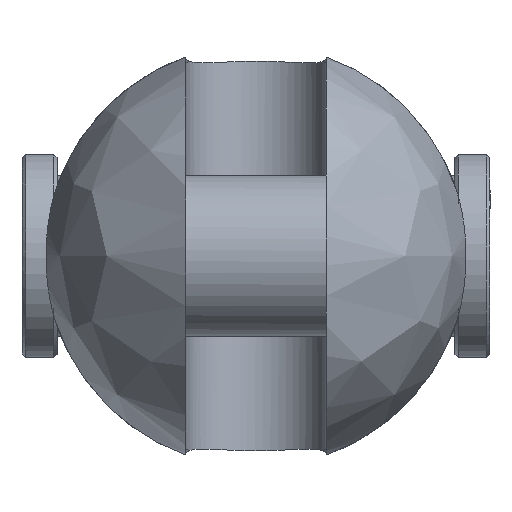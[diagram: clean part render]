
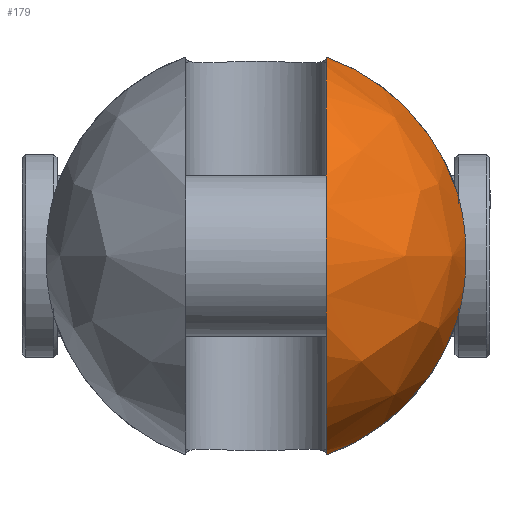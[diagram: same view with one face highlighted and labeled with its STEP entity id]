
A CAD part, left-side view. The second image highlights one B-rep face of the part: STEP entity #179.
In plain terms, the highlighted free-form (B-spline) face has degree [2, 2] with [9, 5] control points.
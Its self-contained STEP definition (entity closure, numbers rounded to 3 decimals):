
#179=ADVANCED_FACE('',(#320),#2412,.T.);
#320=FACE_OUTER_BOUND('',#481,.T.);
#481=EDGE_LOOP('',(#1192,#1193,#1194,#1195));
#1192=ORIENTED_EDGE('',*,*,#1576,.T.);
#1193=ORIENTED_EDGE('',*,*,#1598,.F.);
#1194=ORIENTED_EDGE('',*,*,#1608,.T.);
#1195=ORIENTED_EDGE('',*,*,#1592,.F.);
#1576=EDGE_CURVE('',#2244,#2243,#1979,.T.);
#1592=EDGE_CURVE('',#2244,#2256,#1989,.T.);
#1598=EDGE_CURVE('',#2263,#2243,#1990,.T.);
#1608=EDGE_CURVE('',#2263,#2256,#1782,.T.);
#1782=B_SPLINE_CURVE_WITH_KNOTS('',3,(#6046,#6047,#6048,#6049,#6050,#6051,
#6052,#6053,#6054,#6055,#6056,#6057,#6058,#6059),.UNSPECIFIED.,.F.,.F.,
(4,2,2,2,2,2,4),(0.,1.771,5.858,9.944,
14.031,18.117,19.888),.UNSPECIFIED.);
#1979=(
BOUNDED_CURVE()
B_SPLINE_CURVE(2,(#5894,#5895,#5896,#5897,#5898),.UNSPECIFIED.,.F.,.F.)
B_SPLINE_CURVE_WITH_KNOTS((3,2,3),(-88.858,-44.429,
0.),.UNSPECIFIED.)
CURVE()
GEOMETRIC_REPRESENTATION_ITEM()
RATIONAL_B_SPLINE_CURVE((1.,0.707,1.,0.707,1.))
REPRESENTATION_ITEM('')
);
#1989=(
BOUNDED_CURVE()
B_SPLINE_CURVE(2,(#5972,#5973,#5974),.UNSPECIFIED.,.F.,.F.)
B_SPLINE_CURVE_WITH_KNOTS((3,3),(0.,27.615),.UNSPECIFIED.)
CURVE()
GEOMETRIC_REPRESENTATION_ITEM()
RATIONAL_B_SPLINE_CURVE((1.,0.896,1.))
REPRESENTATION_ITEM('')
);
#1990=(
BOUNDED_CURVE()
B_SPLINE_CURVE(2,(#6001,#6002,#6003),.UNSPECIFIED.,.F.,.F.)
B_SPLINE_CURVE_WITH_KNOTS((3,3),(0.,27.615),.UNSPECIFIED.)
CURVE()
GEOMETRIC_REPRESENTATION_ITEM()
RATIONAL_B_SPLINE_CURVE((1.,0.896,1.))
REPRESENTATION_ITEM('')
);
#2243=VERTEX_POINT('',#5762);
#2244=VERTEX_POINT('',#5763);
#2256=VERTEX_POINT('',#5775);
#2263=VERTEX_POINT('',#5782);
#2412=(
BOUNDED_SURFACE()
B_SPLINE_SURFACE(2,2,((#5476,#5477,#5478,#5479,#5480),(#5481,#5482,#5483,
#5484,#5485),(#5486,#5487,#5488,#5489,#5490),(#5491,#5492,#5493,#5494,#5495),
(#5496,#5497,#5498,#5499,#5500),(#5501,#5502,#5503,#5504,#5505),(#5506,
#5507,#5508,#5509,#5510),(#5511,#5512,#5513,#5514,#5515),(#5516,#5517,#5518,
#5519,#5520)),.UNSPECIFIED.,.T.,.F.,.F.)
B_SPLINE_SURFACE_WITH_KNOTS((3,2,2,2,3),(3,2,3),(0.,47.124,94.248,
141.372,188.496),(0.,47.124,94.248),
 .UNSPECIFIED.)
GEOMETRIC_REPRESENTATION_ITEM()
RATIONAL_B_SPLINE_SURFACE(((1.,0.707,1.,0.707,1.),
(0.707,0.5,0.707,0.5,0.707),(1.,0.707,
1.,0.707,1.),(0.707,0.5,0.707,0.5,0.707),
(1.,0.707,1.,0.707,1.),(0.707,0.5,0.707,
0.5,0.707),(1.,0.707,1.,0.707,1.),(0.707,
0.5,0.707,0.5,0.707),(1.,0.707,1.,0.707,
1.)))
REPRESENTATION_ITEM('')
SURFACE()
);
#5476=CARTESIAN_POINT('',(-42.5,0.,0.));
#5477=CARTESIAN_POINT('',(-42.5,30.,0.));
#5478=CARTESIAN_POINT('',(-12.5,30.,0.));
#5479=CARTESIAN_POINT('',(17.5,30.,0.));
#5480=CARTESIAN_POINT('',(17.5,0.,0.));
#5481=CARTESIAN_POINT('',(-42.5,0.,0.));
#5482=CARTESIAN_POINT('',(-42.5,30.,30.));
#5483=CARTESIAN_POINT('',(-12.5,30.,30.));
#5484=CARTESIAN_POINT('',(17.5,30.,30.));
#5485=CARTESIAN_POINT('',(17.5,0.,0.));
#5486=CARTESIAN_POINT('',(-42.5,0.,0.));
#5487=CARTESIAN_POINT('',(-42.5,0.,30.));
#5488=CARTESIAN_POINT('',(-12.5,0.,30.));
#5489=CARTESIAN_POINT('',(17.5,0.,30.));
#5490=CARTESIAN_POINT('',(17.5,0.,0.));
#5491=CARTESIAN_POINT('',(-42.5,0.,0.));
#5492=CARTESIAN_POINT('',(-42.5,-30.,30.));
#5493=CARTESIAN_POINT('',(-12.5,-30.,30.));
#5494=CARTESIAN_POINT('',(17.5,-30.,30.));
#5495=CARTESIAN_POINT('',(17.5,0.,0.));
#5496=CARTESIAN_POINT('',(-42.5,0.,0.));
#5497=CARTESIAN_POINT('',(-42.5,-30.,0.));
#5498=CARTESIAN_POINT('',(-12.5,-30.,0.));
#5499=CARTESIAN_POINT('',(17.5,-30.,0.));
#5500=CARTESIAN_POINT('',(17.5,0.,0.));
#5501=CARTESIAN_POINT('',(-42.5,0.,0.));
#5502=CARTESIAN_POINT('',(-42.5,-30.,-30.));
#5503=CARTESIAN_POINT('',(-12.5,-30.,-30.));
#5504=CARTESIAN_POINT('',(17.5,-30.,-30.));
#5505=CARTESIAN_POINT('',(17.5,0.,0.));
#5506=CARTESIAN_POINT('',(-42.5,0.,0.));
#5507=CARTESIAN_POINT('',(-42.5,0.,-30.));
#5508=CARTESIAN_POINT('',(-12.5,0.,-30.));
#5509=CARTESIAN_POINT('',(17.5,0.,-30.));
#5510=CARTESIAN_POINT('',(17.5,0.,0.));
#5511=CARTESIAN_POINT('',(-42.5,0.,0.));
#5512=CARTESIAN_POINT('',(-42.5,30.,-30.));
#5513=CARTESIAN_POINT('',(-12.5,30.,-30.));
#5514=CARTESIAN_POINT('',(17.5,30.,-30.));
#5515=CARTESIAN_POINT('',(17.5,0.,0.));
#5516=CARTESIAN_POINT('',(-42.5,0.,0.));
#5517=CARTESIAN_POINT('',(-42.5,30.,0.));
#5518=CARTESIAN_POINT('',(-12.5,30.,0.));
#5519=CARTESIAN_POINT('',(17.5,30.,0.));
#5520=CARTESIAN_POINT('',(17.5,0.,0.));
#5762=CARTESIAN_POINT('',(-12.5,-10.,-28.284));
#5763=CARTESIAN_POINT('',(-12.5,-10.,28.284));
#5775=CARTESIAN_POINT('',(-12.5,-28.566,9.165));
#5782=CARTESIAN_POINT('',(-12.5,-28.566,-9.165));
#5894=CARTESIAN_POINT('',(-12.5,-10.,28.284));
#5895=CARTESIAN_POINT('',(-40.784,-10.,28.284));
#5896=CARTESIAN_POINT('',(-40.784,-10.,0.));
#5897=CARTESIAN_POINT('',(-40.784,-10.,-28.284));
#5898=CARTESIAN_POINT('',(-12.5,-10.,-28.284));
#5972=CARTESIAN_POINT('',(-12.5,-10.,28.284));
#5973=CARTESIAN_POINT('',(-12.5,-24.022,23.327));
#5974=CARTESIAN_POINT('',(-12.5,-28.566,9.165));
#6001=CARTESIAN_POINT('',(-12.5,-28.566,-9.165));
#6002=CARTESIAN_POINT('',(-12.5,-24.022,-23.327));
#6003=CARTESIAN_POINT('',(-12.5,-10.,-28.284));
#6046=CARTESIAN_POINT('',(-12.5,-28.566,-9.165));
#6047=CARTESIAN_POINT('',(-12.838,-28.714,-8.704));
#6048=CARTESIAN_POINT('',(-13.146,-28.847,-8.231));
#6049=CARTESIAN_POINT('',(-14.053,-29.239,-6.661));
#6050=CARTESIAN_POINT('',(-14.603,-29.472,-5.378));
#6051=CARTESIAN_POINT('',(-15.327,-29.777,-2.695));
#6052=CARTESIAN_POINT('',(-15.5,-29.85,-1.294));
#6053=CARTESIAN_POINT('',(-15.5,-29.85,1.294));
#6054=CARTESIAN_POINT('',(-15.327,-29.777,2.695));
#6055=CARTESIAN_POINT('',(-14.603,-29.472,5.378));
#6056=CARTESIAN_POINT('',(-14.053,-29.239,6.661));
#6057=CARTESIAN_POINT('',(-13.146,-28.847,8.231));
#6058=CARTESIAN_POINT('',(-12.838,-28.714,8.704));
#6059=CARTESIAN_POINT('',(-12.5,-28.566,9.165));
